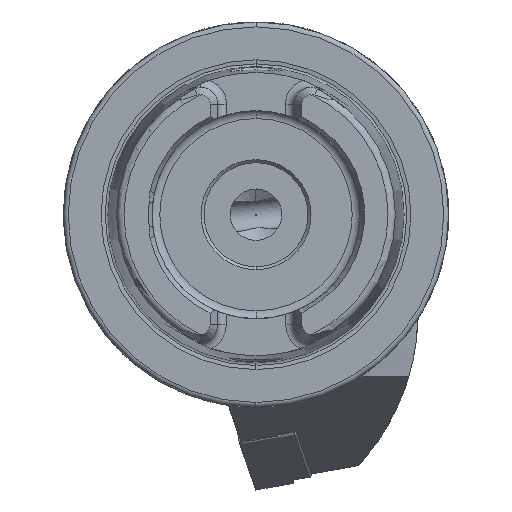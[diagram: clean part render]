
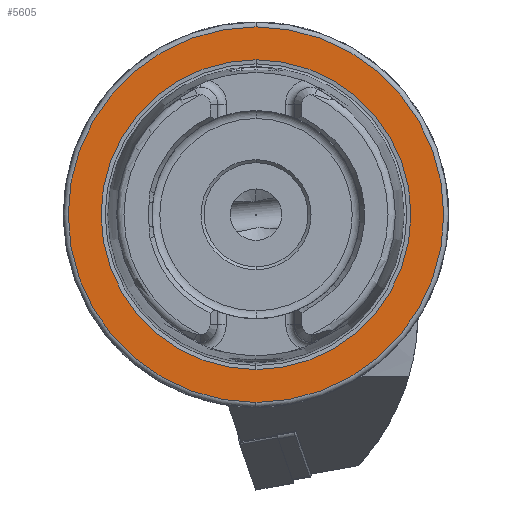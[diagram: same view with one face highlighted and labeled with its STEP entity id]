
A CAD part, left-side view. The second image highlights one B-rep face of the part: STEP entity #5605.
In plain terms, the highlighted planar face has unit normal (-1, 0, 0).
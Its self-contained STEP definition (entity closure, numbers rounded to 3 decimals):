
#40 = ORIENTED_EDGE ( 'NONE', *, *, #5113, .F. ) ;
#138 = EDGE_LOOP ( 'NONE', ( #13635, #15098 ) ) ;
#258 = CARTESIAN_POINT ( 'NONE',  ( 0., 0., -30.7 ) ) ;
#524 = FACE_BOUND ( 'NONE', #5608, .T. ) ;
#1062 = DIRECTION ( 'NONE',  ( -1., 0., 0. ) ) ;
#2072 = CARTESIAN_POINT ( 'NONE',  ( 0., 0., 0. ) ) ;
#2529 = EDGE_CURVE ( 'NONE', #13705, #12180, #17633, .T. ) ;
#3321 = AXIS2_PLACEMENT_3D ( 'NONE', #14059, #1062, #15535 ) ;
#3544 = DIRECTION ( 'NONE',  ( -1., 0., 0. ) ) ;
#3552 = CARTESIAN_POINT ( 'NONE',  ( 0., 0., 0. ) ) ;
#3655 = CARTESIAN_POINT ( 'NONE',  ( 0., 0., 25.324 ) ) ;
#4228 = AXIS2_PLACEMENT_3D ( 'NONE', #18127, #16646, #7938 ) ;
#5018 = DIRECTION ( 'NONE',  ( 0., 0., 1. ) ) ;
#5113 = EDGE_CURVE ( 'NONE', #9553, #17236, #14878, .T. ) ;
#5490 = EDGE_CURVE ( 'NONE', #17236, #9553, #15767, .T. ) ;
#5605 = ADVANCED_FACE ( 'NONE', ( #524, #11493 ), #8613, .F. ) ;
#5608 = EDGE_LOOP ( 'NONE', ( #40, #16252 ) ) ;
#5668 = CARTESIAN_POINT ( 'NONE',  ( 0., 30.7, 0. ) ) ;
#7938 = DIRECTION ( 'NONE',  ( 0., 0., 1. ) ) ;
#8387 = CARTESIAN_POINT ( 'NONE',  ( 0., 0., 30.7 ) ) ;
#8569 = AXIS2_PLACEMENT_3D ( 'NONE', #5668, #16091, #12947 ) ;
#8613 = PLANE ( 'NONE',  #8569 ) ;
#9553 = VERTEX_POINT ( 'NONE', #3655 ) ;
#10056 = CARTESIAN_POINT ( 'NONE',  ( 0., 0., -25.324 ) ) ;
#10148 = EDGE_CURVE ( 'NONE', #12180, #13705, #12736, .T. ) ;
#10482 = AXIS2_PLACEMENT_3D ( 'NONE', #3552, #12444, #13797 ) ;
#11493 = FACE_OUTER_BOUND ( 'NONE', #138, .T. ) ;
#12180 = VERTEX_POINT ( 'NONE', #8387 ) ;
#12444 = DIRECTION ( 'NONE',  ( -1., 0., 0. ) ) ;
#12736 = CIRCLE ( 'NONE', #10482, 30.7 ) ;
#12947 = DIRECTION ( 'NONE',  ( 0., 0., -1. ) ) ;
#13635 = ORIENTED_EDGE ( 'NONE', *, *, #10148, .T. ) ;
#13705 = VERTEX_POINT ( 'NONE', #258 ) ;
#13797 = DIRECTION ( 'NONE',  ( 0., 0., 1. ) ) ;
#14059 = CARTESIAN_POINT ( 'NONE',  ( 0., 0., 0. ) ) ;
#14878 = CIRCLE ( 'NONE', #18671, 25.324 ) ;
#15098 = ORIENTED_EDGE ( 'NONE', *, *, #2529, .T. ) ;
#15535 = DIRECTION ( 'NONE',  ( 0., 0., 1. ) ) ;
#15767 = CIRCLE ( 'NONE', #3321, 25.324 ) ;
#16091 = DIRECTION ( 'NONE',  ( 1., 0., 0. ) ) ;
#16252 = ORIENTED_EDGE ( 'NONE', *, *, #5490, .F. ) ;
#16646 = DIRECTION ( 'NONE',  ( -1., 0., 0. ) ) ;
#17236 = VERTEX_POINT ( 'NONE', #10056 ) ;
#17633 = CIRCLE ( 'NONE', #4228, 30.7 ) ;
#18127 = CARTESIAN_POINT ( 'NONE',  ( 0., 0., 0. ) ) ;
#18671 = AXIS2_PLACEMENT_3D ( 'NONE', #2072, #3544, #5018 ) ;
